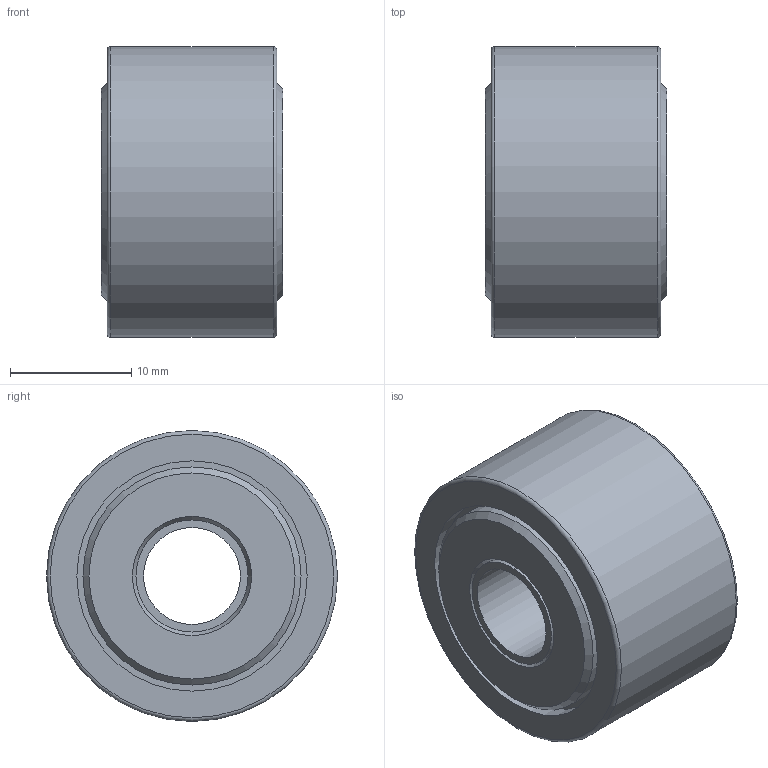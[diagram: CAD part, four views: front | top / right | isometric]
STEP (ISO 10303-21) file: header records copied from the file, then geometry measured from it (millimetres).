
FILE_DESCRIPTION(/* description */ (''),/* implementation_level */ '2;1');
FILE_NAME(/* name */ 'C:\Users\OUREHANEKD\Desktop\Ložiská 3D\MODELY\Ihlove loziska\NATR-PP\NATR-PP--\NATR8-PP.stp',/* time_stamp */ '2016-10-18T15:23:51+02:00',/* author */ ('OUREHANEKD'),/* organization */ (''),/* preprocessor_version */ 'ST-DEVELOPER v15.6',/* originating_system */ 'Autodesk Inventor 2015',/* authorisation */ '');
FILE_SCHEMA (('AUTOMOTIVE_DESIGN { 1 0 10303 214 3 1 1 }'));
Length unit declared in the file: millimetre
Products named in the file (6): NATR8-01; NATR8-02; NATR8-kl; NATR8-kr; NATR8-needle; NATR8-PP
Assembly tree (15 placements, depth 2):
  NATR8-PP
    NATR8-01
    NATR8-02
    NATR8-kl
    NATR8-kr
    NATR8-needle  x11
Bounding box: 15 x 24 x 24 mm (x, y, z)
Volume: 5349.4 mm3; surface area: 5931.3 mm2
Topology: 16 solids, 16 shells, 71 faces, 95 edges, 62 vertices
Faces by surface type: plane 38, cylinder 27, cone 4, torus 2
Full cylindrical faces by diameter (mm): 2.875 x11, 8 x1, 9.25 x4, 10 x1, 12.065 x1, 13.685 x1, 15.75 x1, 18 x4, 19 x2, 24 x1
Entity records: 1041 total; most frequent: DIRECTION 204, CARTESIAN_POINT 142, AXIS2_PLACEMENT_3D 102, EDGE_LOOP 80, ORIENTED_EDGE 80, FACE_OUTER_BOUND 41, ADVANCED_FACE 41, CIRCLE 40
